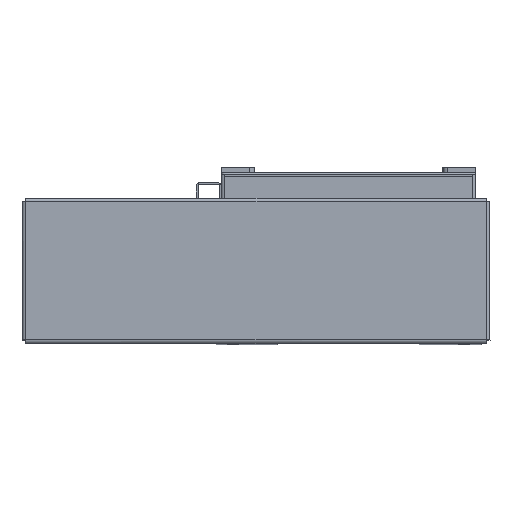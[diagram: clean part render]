
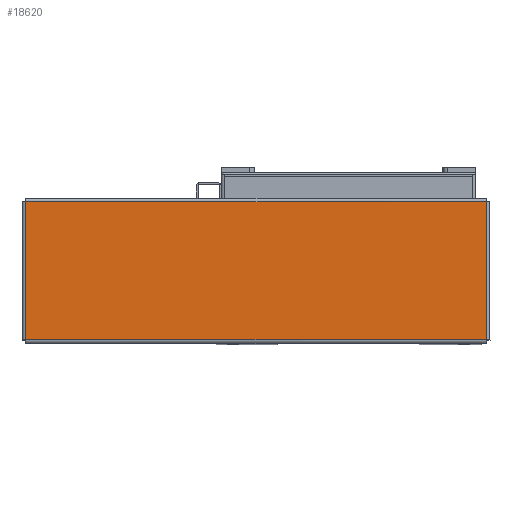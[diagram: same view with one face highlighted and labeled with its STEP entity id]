
A CAD part, top view. The second image highlights one B-rep face of the part: STEP entity #18620.
In plain terms, the highlighted planar face has unit normal (0, 0, 1) as drawn and (0, -1, 0) by its records, which use the part's own axes.
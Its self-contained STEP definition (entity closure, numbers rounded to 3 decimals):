
#46 = LINE ( 'NONE', #31689, #47 ) ;
#47 = VECTOR ( 'NONE', #31694, 1000. ) ;
#118 = LINE ( 'NONE', #31787, #143 ) ;
#143 = VECTOR ( 'NONE', #31790, 1000. ) ;
#184 = VECTOR ( 'NONE', #31976, 1000. ) ;
#210 = LINE ( 'NONE', #31950, #184 ) ;
#234 = LINE ( 'NONE', #32059, #264 ) ;
#264 = VECTOR ( 'NONE', #32046, 1000. ) ;
#16697 = EDGE_CURVE ( 'NONE', #45658, #45637, #46, .T. ) ;
#16723 = EDGE_CURVE ( 'NONE', #45637, #45651, #118, .T. ) ;
#16790 = EDGE_CURVE ( 'NONE', #45651, #45671, #210, .T. ) ;
#16815 = EDGE_CURVE ( 'NONE', #45671, #45658, #234, .T. ) ;
#18620 = ADVANCED_FACE ( 'NONE', ( #46618 ), #38999, .F. ) ;
#19308 = ORIENTED_EDGE ( 'NONE', *, *, #16790, .T. ) ;
#19314 = ORIENTED_EDGE ( 'NONE', *, *, #16723, .T. ) ;
#19339 = ORIENTED_EDGE ( 'NONE', *, *, #16697, .T. ) ;
#19343 = ORIENTED_EDGE ( 'NONE', *, *, #16815, .T. ) ;
#20954 = AXIS2_PLACEMENT_3D ( 'NONE', #39000, #39002, #39005 ) ;
#26530 = CARTESIAN_POINT ( 'NONE',  ( -139.263, -1.5, 41.763 ) ) ;
#26541 = CARTESIAN_POINT ( 'NONE',  ( 139.263, -1.5, 41.763 ) ) ;
#26570 = CARTESIAN_POINT ( 'NONE',  ( 139.263, -1.5, -41.763 ) ) ;
#26587 = CARTESIAN_POINT ( 'NONE',  ( -139.263, -1.5, -41.763 ) ) ;
#31689 = CARTESIAN_POINT ( 'NONE',  ( -139.263, -1.5, 41.793 ) ) ;
#31694 = DIRECTION ( 'NONE',  ( 0., 0., -1. ) ) ;
#31787 = CARTESIAN_POINT ( 'NONE',  ( -139.293, -1.5, -41.763 ) ) ;
#31790 = DIRECTION ( 'NONE',  ( 1., 0., 0. ) ) ;
#31950 = CARTESIAN_POINT ( 'NONE',  ( 139.263, -1.5, -41.793 ) ) ;
#31976 = DIRECTION ( 'NONE',  ( 0., 0., 1. ) ) ;
#32046 = DIRECTION ( 'NONE',  ( -1., 0., 0. ) ) ;
#32059 = CARTESIAN_POINT ( 'NONE',  ( 139.293, -1.5, 41.763 ) ) ;
#38999 = PLANE ( 'NONE',  #20954 ) ;
#39000 = CARTESIAN_POINT ( 'NONE',  ( 0., -1.5, 0. ) ) ;
#39002 = DIRECTION ( 'NONE',  ( 0., 1., 0. ) ) ;
#39005 = DIRECTION ( 'NONE',  ( 0., 0., 1. ) ) ;
#45637 = VERTEX_POINT ( 'NONE', #26587 ) ;
#45651 = VERTEX_POINT ( 'NONE', #26570 ) ;
#45658 = VERTEX_POINT ( 'NONE', #26530 ) ;
#45671 = VERTEX_POINT ( 'NONE', #26541 ) ;
#46618 = FACE_OUTER_BOUND ( 'NONE', #48431, .T. ) ;
#48431 = EDGE_LOOP ( 'NONE', ( #19308, #19343, #19339, #19314 ) ) ;
